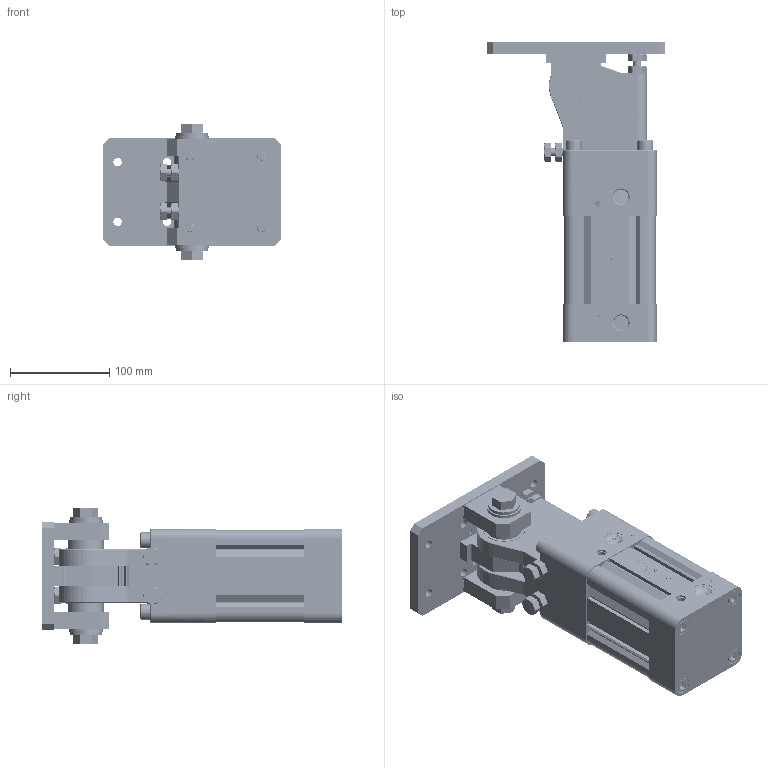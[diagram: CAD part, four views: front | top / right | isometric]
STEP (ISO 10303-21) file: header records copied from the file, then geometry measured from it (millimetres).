
FILE_DESCRIPTION(/* description */ (''),/* implementation_level */ '2;1');
FILE_NAME(/* name */ 'PCB检测气缸组 MQ-PCBD1008-TW25063002.stp',/* time_stamp */ '2025-07-01T10:19:48+08:00',/* author */ (''),/* organization */ (''),/* preprocessor_version */ 'ST-DEVELOPER v15',/* originating_system */ 'SIEMENS PLM Software NX 10.0',/* authorisation */ '');
FILE_SCHEMA (('AP203_CONFIGURATION_CONTROLLED_3D_DESIGN_OF_MECHANICAL_PARTS_AND_ASSEMBLIES_MIM_LF { 1 0 10303 403 2 1 2}'));
Products named in the file (1): Admi2D645086p75y
Bounding box: 180 x 302 x 138 mm (x, y, z)
Volume: 2398602.9 mm3; surface area: 400067 mm2
Topology: 52 solids, 55 shells, 1897 faces, 4798 edges, 3165 vertices
Faces by surface type: plane 900, cylinder 460, extrusion 323, cone 122, bspline 78, torus 14
Full cylindrical faces by diameter (mm): 3.3 x2, 4.2 x4, 5 x4, 6.1 x6, 6.4 x5, 6.5 x6, 6.8 x2, 8 x16, 8.5 x24, 8.7 x4, 10 x94, 10.7 x4, 13 x6, 14 x8, 15 x8, 16 x4, 16.3 x8, 16.5 x2, 20 x10, 23 x2, 25 x2, 25.2 x1, 25.5 x1, 29 x1, 35 x2, 36 x2, 42 x4, 77 x1, 80 x1
Entity records: 141933 total; most frequent: CARTESIAN_POINT 101799, ORIENTED_EDGE 8356, DIRECTION 7030, EDGE_CURVE 4178, VERTEX_POINT 2880, VECTOR 2576, EDGE_LOOP 2288, LINE 2253
